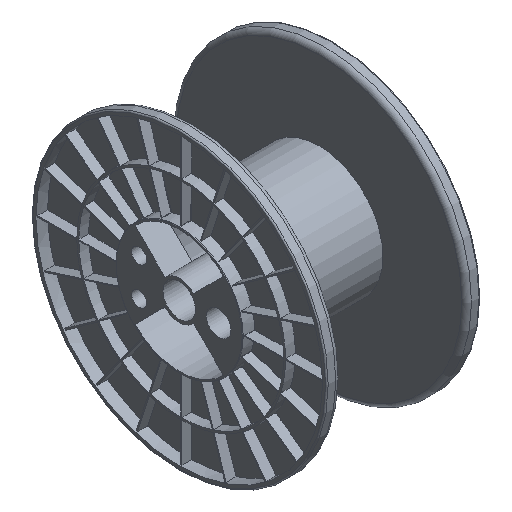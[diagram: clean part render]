
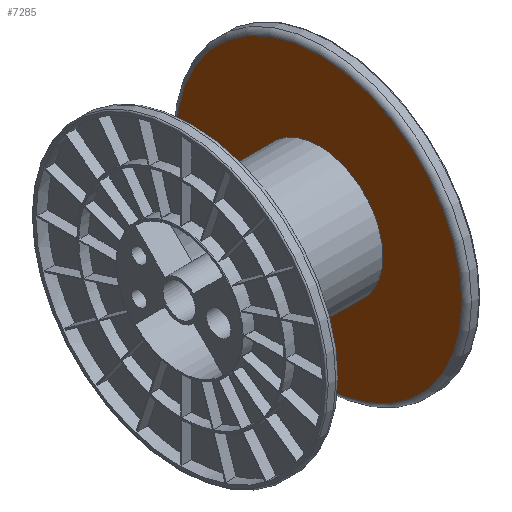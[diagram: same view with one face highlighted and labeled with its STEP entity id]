
A CAD part, isometric view. The second image highlights one B-rep face of the part: STEP entity #7285.
In plain terms, the highlighted planar face has unit normal (-1, 0, 0).
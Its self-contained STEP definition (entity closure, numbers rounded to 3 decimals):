
#47=FACE_BOUND('',#897,.T.);
#509=FACE_OUTER_BOUND('',#896,.T.);
#896=EDGE_LOOP('',(#6655));
#897=EDGE_LOOP('',(#6656));
#2677=CIRCLE('',#8055,145.083);
#2678=CIRCLE('',#8057,65.);
#3401=VERTEX_POINT('',#12443);
#3402=VERTEX_POINT('',#12447);
#4486=EDGE_CURVE('',#3401,#3401,#2677,.T.);
#4487=EDGE_CURVE('',#3402,#3402,#2678,.T.);
#6655=ORIENTED_EDGE('',*,*,#4486,.F.);
#6656=ORIENTED_EDGE('',*,*,#4487,.F.);
#6921=PLANE('',#8056);
#7285=ADVANCED_FACE('',(#509,#47),#6921,.F.);
#8055=AXIS2_PLACEMENT_3D('',#12445,#10263,#10264);
#8056=AXIS2_PLACEMENT_3D('',#12446,#10265,#10266);
#8057=AXIS2_PLACEMENT_3D('',#12448,#10267,#10268);
#10263=DIRECTION('center_axis',(1.,0.,0.));
#10264=DIRECTION('ref_axis',(0.,0.,-1.));
#10265=DIRECTION('center_axis',(1.,0.,0.));
#10266=DIRECTION('ref_axis',(0.,0.,-1.));
#10267=DIRECTION('center_axis',(-1.,0.,0.));
#10268=DIRECTION('ref_axis',(0.,0.,1.));
#12443=CARTESIAN_POINT('',(142.,0.,145.083));
#12445=CARTESIAN_POINT('Origin',(142.,0.,0.));
#12446=CARTESIAN_POINT('Origin',(142.,0.,150.));
#12447=CARTESIAN_POINT('',(142.,0.,-65.));
#12448=CARTESIAN_POINT('Origin',(142.,0.,0.));
